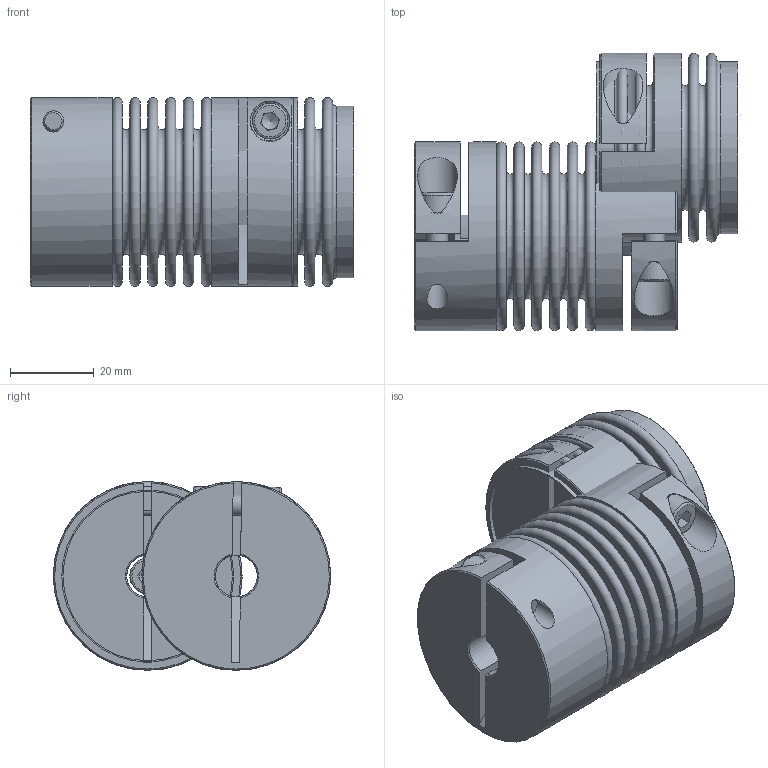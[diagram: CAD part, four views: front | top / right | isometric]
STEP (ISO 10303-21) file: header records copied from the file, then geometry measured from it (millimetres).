
FILE_DESCRIPTION( ( 'Unknown' ), '1' );
FILE_NAME( 'C:/Dokumente und Einstellungen/Sven/Desktop/cad - homepage/KB4/KB4-18-63.stp', 'Unknown', ( 'Unknown' ), ( 'Unknown' ), 'XStep 1.0', 'Unknown', ' ' );
FILE_SCHEMA( ( 'automotive_design' ) );
Length unit declared in the file: millimetre
Products named in the file (4): Assem1; Socket Head Cap Screw_DIN_DIN 912 M5 x 16 --- 16N; KN18_Standard; BK18_Standard
Bounding box: 77.09 x 66.14 x 45 mm (x, y, z)
Volume: 88524.1 mm3; surface area: 76817 mm2
Topology: 8 solids, 8 shells, 230 faces, 465 edges, 298 vertices
Faces by surface type: plane 120, torus 57, cylinder 35, cone 15, bspline 3
Full cylindrical faces by diameter (mm): 5 x9, 8.5 x3, 10 x3, 40.4 x4, 41 x4, 45 x3
Entity records: 3061 total; most frequent: CARTESIAN_POINT 1007, DIRECTION 409, ORIENTED_EDGE 276, AXIS2_PLACEMENT_3D 185, EDGE_LOOP 163, EDGE_CURVE 138, FACE_OUTER_BOUND 130, VERTEX_POINT 112
